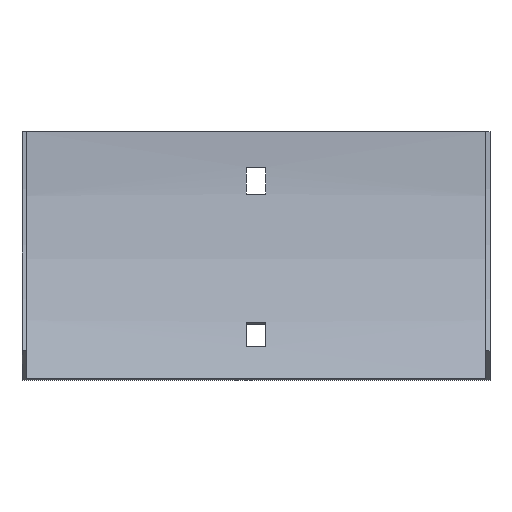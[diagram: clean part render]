
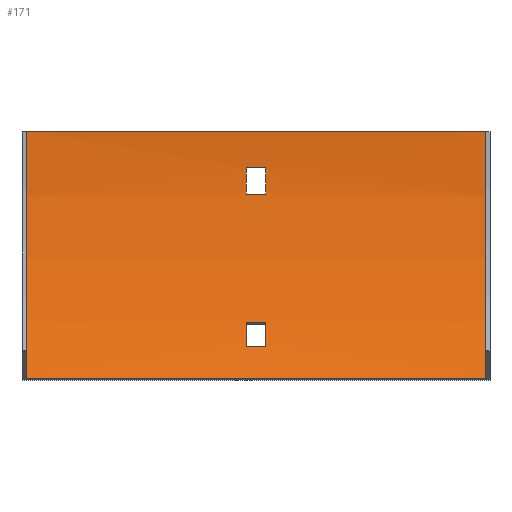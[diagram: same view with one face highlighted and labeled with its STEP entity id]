
A CAD part, front view. The second image highlights one B-rep face of the part: STEP entity #171.
In plain terms, the highlighted cylindrical face has radius 165.5 mm (diameter 331 mm), a partial arc.
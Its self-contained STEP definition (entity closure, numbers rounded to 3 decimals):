
#1 = ORIENTED_EDGE ( 'NONE', *, *, #175, .F. ) ;
#2 = CARTESIAN_POINT ( 'NONE',  ( -3.25, -14.331, -63.895 ) ) ;
#8 = CARTESIAN_POINT ( 'NONE',  ( 78.5, -18.05, -72.14 ) ) ;
#10 = CARTESIAN_POINT ( 'NONE',  ( 77., -23.673, -82.75 ) ) ;
#20 = VECTOR ( 'NONE', #94, 1000. ) ;
#32 = CARTESIAN_POINT ( 'NONE',  ( 77., -167., 0. ) ) ;
#37 = EDGE_CURVE ( 'NONE', #493, #232, #564, .T. ) ;
#42 = ORIENTED_EDGE ( 'NONE', *, *, #106, .T. ) ;
#50 = ORIENTED_EDGE ( 'NONE', *, *, #202, .T. ) ;
#53 = EDGE_LOOP ( 'NONE', ( #163, #50, #311, #604 ) ) ;
#81 = CARTESIAN_POINT ( 'NONE',  ( 78.5, -167., 0. ) ) ;
#89 = CARTESIAN_POINT ( 'NONE',  ( 77., -1.5, 0. ) ) ;
#90 = CIRCLE ( 'NONE', #481, 165.5 ) ;
#94 = DIRECTION ( 'NONE',  ( -1., 0., 0. ) ) ;
#97 = VERTEX_POINT ( 'NONE', #89 ) ;
#106 = EDGE_CURVE ( 'NONE', #602, #97, #597, .T. ) ;
#119 = VERTEX_POINT ( 'NONE', #2 ) ;
#121 = CARTESIAN_POINT ( 'NONE',  ( -77., -167., 0. ) ) ;
#126 = LINE ( 'NONE', #326, #531 ) ;
#132 = CYLINDRICAL_SURFACE ( 'NONE', #588, 165.5 ) ;
#142 = DIRECTION ( 'NONE',  ( 1., 0., 0. ) ) ;
#159 = AXIS2_PLACEMENT_3D ( 'NONE', #121, #167, #321 ) ;
#163 = ORIENTED_EDGE ( 'NONE', *, *, #344, .T. ) ;
#167 = DIRECTION ( 'NONE',  ( 1., 0., 0. ) ) ;
#168 = ORIENTED_EDGE ( 'NONE', *, *, #319, .F. ) ;
#169 = CIRCLE ( 'NONE', #224, 165.5 ) ;
#171 = ADVANCED_FACE ( 'NONE', ( #471, #325, #601 ), #132, .F. ) ;
#175 = EDGE_CURVE ( 'NONE', #242, #569, #233, .T. ) ;
#188 = CARTESIAN_POINT ( 'NONE',  ( -3.25, -18.05, -72.14 ) ) ;
#192 = VECTOR ( 'NONE', #142, 1000. ) ;
#194 = DIRECTION ( 'NONE',  ( 0., 0., -1. ) ) ;
#195 = EDGE_LOOP ( 'NONE', ( #376, #257, #42, #347 ) ) ;
#200 = DIRECTION ( 'NONE',  ( -1., 0., 0. ) ) ;
#202 = EDGE_CURVE ( 'NONE', #414, #119, #90, .T. ) ;
#203 = CARTESIAN_POINT ( 'NONE',  ( -3.25, -167., 0. ) ) ;
#211 = DIRECTION ( 'NONE',  ( -1., 0., 0. ) ) ;
#213 = ORIENTED_EDGE ( 'NONE', *, *, #534, .F. ) ;
#224 = AXIS2_PLACEMENT_3D ( 'NONE', #606, #518, #194 ) ;
#225 = EDGE_CURVE ( 'NONE', #569, #566, #309, .T. ) ;
#228 = CARTESIAN_POINT ( 'NONE',  ( 3.25, -167., 0. ) ) ;
#232 = VERTEX_POINT ( 'NONE', #304 ) ;
#233 = LINE ( 'NONE', #462, #20 ) ;
#242 = VERTEX_POINT ( 'NONE', #575 ) ;
#252 = EDGE_CURVE ( 'NONE', #602, #493, #264, .T. ) ;
#257 = ORIENTED_EDGE ( 'NONE', *, *, #252, .F. ) ;
#264 = LINE ( 'NONE', #10, #286 ) ;
#270 = VECTOR ( 'NONE', #492, 1000. ) ;
#278 = CARTESIAN_POINT ( 'NONE',  ( 77., -23.673, -82.75 ) ) ;
#279 = DIRECTION ( 'NONE',  ( -1., 0., 0. ) ) ;
#280 = DIRECTION ( 'NONE',  ( 0., 0., 1. ) ) ;
#283 = DIRECTION ( 'NONE',  ( 1., 0., 0. ) ) ;
#286 = VECTOR ( 'NONE', #431, 1000. ) ;
#292 = EDGE_LOOP ( 'NONE', ( #507, #1, #168, #213 ) ) ;
#300 = CIRCLE ( 'NONE', #450, 165.5 ) ;
#304 = CARTESIAN_POINT ( 'NONE',  ( -77., -1.5, 0. ) ) ;
#309 = CIRCLE ( 'NONE', #503, 165.5 ) ;
#311 = ORIENTED_EDGE ( 'NONE', *, *, #434, .T. ) ;
#319 = EDGE_CURVE ( 'NONE', #461, #242, #169, .T. ) ;
#321 = DIRECTION ( 'NONE',  ( 0., 0., 1. ) ) ;
#325 = FACE_OUTER_BOUND ( 'NONE', #195, .T. ) ;
#326 = CARTESIAN_POINT ( 'NONE',  ( 77., -1.5, 0. ) ) ;
#327 = LINE ( 'NONE', #506, #192 ) ;
#344 = EDGE_CURVE ( 'NONE', #375, #414, #429, .T. ) ;
#347 = ORIENTED_EDGE ( 'NONE', *, *, #526, .T. ) ;
#354 = DIRECTION ( 'NONE',  ( 0., 0., 1. ) ) ;
#358 = CARTESIAN_POINT ( 'NONE',  ( -3.25, -2.838, -21. ) ) ;
#368 = AXIS2_PLACEMENT_3D ( 'NONE', #32, #283, #557 ) ;
#369 = VECTOR ( 'NONE', #200, 1000. ) ;
#374 = DIRECTION ( 'NONE',  ( -1., 0., 0. ) ) ;
#375 = VERTEX_POINT ( 'NONE', #528 ) ;
#376 = ORIENTED_EDGE ( 'NONE', *, *, #37, .F. ) ;
#379 = VERTEX_POINT ( 'NONE', #536 ) ;
#402 = LINE ( 'NONE', #552, #270 ) ;
#414 = VERTEX_POINT ( 'NONE', #188 ) ;
#415 = DIRECTION ( 'NONE',  ( 1., 0., 0. ) ) ;
#429 = LINE ( 'NONE', #8, #369 ) ;
#431 = DIRECTION ( 'NONE',  ( -1., 0., 0. ) ) ;
#434 = EDGE_CURVE ( 'NONE', #119, #379, #327, .T. ) ;
#438 = DIRECTION ( 'NONE',  ( -1., 0., 0. ) ) ;
#450 = AXIS2_PLACEMENT_3D ( 'NONE', #228, #279, #460 ) ;
#460 = DIRECTION ( 'NONE',  ( 0., 0., 1. ) ) ;
#461 = VERTEX_POINT ( 'NONE', #572 ) ;
#462 = CARTESIAN_POINT ( 'NONE',  ( 78.5, -1.936, -12. ) ) ;
#471 = FACE_BOUND ( 'NONE', #292, .T. ) ;
#481 = AXIS2_PLACEMENT_3D ( 'NONE', #559, #415, #598 ) ;
#492 = DIRECTION ( 'NONE',  ( 1., 0., 0. ) ) ;
#493 = VERTEX_POINT ( 'NONE', #548 ) ;
#502 = EDGE_CURVE ( 'NONE', #379, #375, #300, .T. ) ;
#503 = AXIS2_PLACEMENT_3D ( 'NONE', #203, #438, #354 ) ;
#506 = CARTESIAN_POINT ( 'NONE',  ( 78.5, -14.331, -63.895 ) ) ;
#507 = ORIENTED_EDGE ( 'NONE', *, *, #225, .F. ) ;
#518 = DIRECTION ( 'NONE',  ( 1., 0., 0. ) ) ;
#526 = EDGE_CURVE ( 'NONE', #97, #232, #126, .T. ) ;
#528 = CARTESIAN_POINT ( 'NONE',  ( 3.25, -18.05, -72.14 ) ) ;
#531 = VECTOR ( 'NONE', #211, 1000. ) ;
#534 = EDGE_CURVE ( 'NONE', #566, #461, #402, .T. ) ;
#536 = CARTESIAN_POINT ( 'NONE',  ( 3.25, -14.331, -63.895 ) ) ;
#541 = CARTESIAN_POINT ( 'NONE',  ( -3.25, -1.936, -12. ) ) ;
#548 = CARTESIAN_POINT ( 'NONE',  ( -77., -23.673, -82.75 ) ) ;
#552 = CARTESIAN_POINT ( 'NONE',  ( 78.5, -2.838, -21. ) ) ;
#557 = DIRECTION ( 'NONE',  ( 0., 0., 1. ) ) ;
#559 = CARTESIAN_POINT ( 'NONE',  ( -3.25, -167., 0. ) ) ;
#564 = CIRCLE ( 'NONE', #159, 165.5 ) ;
#566 = VERTEX_POINT ( 'NONE', #358 ) ;
#569 = VERTEX_POINT ( 'NONE', #541 ) ;
#572 = CARTESIAN_POINT ( 'NONE',  ( 3.25, -2.838, -21. ) ) ;
#575 = CARTESIAN_POINT ( 'NONE',  ( 3.25, -1.936, -12. ) ) ;
#588 = AXIS2_PLACEMENT_3D ( 'NONE', #81, #374, #280 ) ;
#597 = CIRCLE ( 'NONE', #368, 165.5 ) ;
#598 = DIRECTION ( 'NONE',  ( 0., 0., -1. ) ) ;
#601 = FACE_BOUND ( 'NONE', #53, .T. ) ;
#602 = VERTEX_POINT ( 'NONE', #278 ) ;
#604 = ORIENTED_EDGE ( 'NONE', *, *, #502, .T. ) ;
#606 = CARTESIAN_POINT ( 'NONE',  ( 3.25, -167., 0. ) ) ;
